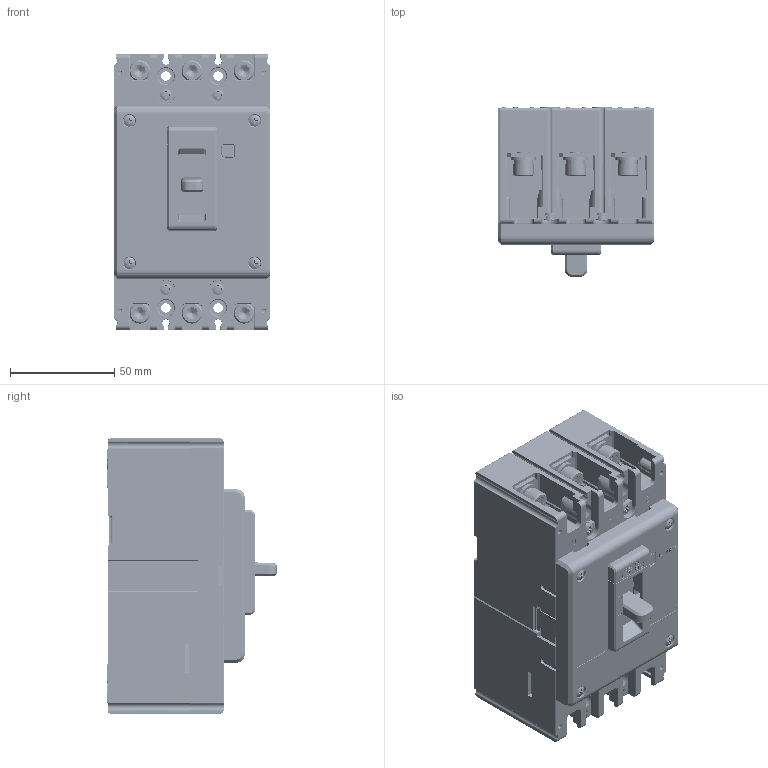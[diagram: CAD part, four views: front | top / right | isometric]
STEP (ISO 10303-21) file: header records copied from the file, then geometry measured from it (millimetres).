
FILE_DESCRIPTION((''),'2;1');
FILE_NAME('2253025000_ASM_2_ASM','2025-04-28T',('Administrator'),(''),'PRO/ENGINEER BY PARAMETRIC TECHNOLOGY CORPORATION, 2015440','PRO/ENGINEER BY PARAMETRIC TECHNOLOGY CORPORATION, 2015440','');
FILE_SCHEMA(('CONFIG_CONTROL_DESIGN'));
Products named in the file (43): JZ-5024045100_2; GB_T809-M3X10_2; 5024045100_ASM_2_ASM; 8946008800_1; 8760006100_1; 5024045700_ASM_2_ASM; 8551032800_1; 5551069200_ASM_1_ASM; 5551069300_ASM_1_ASM; 8742101200_2; 8742101100_2; 8585063700_1; 85050240P08_1_ASM; 5551069000_ASM_1_ASM; 55510691P01_ASM_2_ASM; 55510694P01_ASM_2_ASM; 5257006300_ASM_1_ASM; 5233014000_ASM_1_ASM; 5850003500_ASM_1_ASM; 67600085P01_ASM_2_ASM; 8040025700_1_ASM; 5612030400_ASM_1_ASM; 6760008600_ASM_1_ASM; 8750038600_1; 8253057100_1; 8865077900_AF0_1; 8865078000_AF0_1; 5253022600_ASM_1_ASM; 8742102100_1; 8315096500_2; 8315096700_1; 8253076700_1; 5315052000_ASM_2_ASM; 7020100411_GB13806_2_ST2_9X8_A_; 7010100312J_GB_T823_M3X20_1; 7090300201_GB_T93_3_1; GB_T97_4_3_1; 5850006000_ASM_1_ASM; 7010600302J_GB_T70_1_M6X16_1; 7090300601J_GB_T93_6_1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
Assembly tree (77 placements, depth 5):
  2253025000_ASM_2_ASM
    5024045700_ASM_2_ASM
      5024045100_ASM_2_ASM
        JZ-5024045100_2
        GB_T809-M3X10_2  x4
      8946008800_1  x6
      8760006100_1  x6
    5551069300_ASM_1_ASM  x3
      5551069200_ASM_1_ASM
        8551032800_1
    8742101200_2  x3
    8742101100_2  x3
    6760008600_ASM_1_ASM
      55510694P01_ASM_2_ASM
        55510691P01_ASM_2_ASM  x3
          8585063700_1
          85050240P08_1_ASM
          5551069000_ASM_1_ASM
      67600085P01_ASM_2_ASM
        5257006300_ASM_1_ASM
        5233014000_ASM_1_ASM
        5850003500_ASM_1_ASM
      5612030400_ASM_1_ASM  x3
        8040025700_1_ASM
    8750038600_1
    5253022600_ASM_1_ASM
      8253057100_1
      8865077900_AF0_1
      8865078000_AF0_1
    8742102100_1
    8315096500_2
    5315052000_ASM_2_ASM
      8315096700_1
      8253076700_1
    7020100411_GB13806_2_ST2_9X8_A_  x4
    5850006000_ASM_1_ASM  x4
      7010100312J_GB_T823_M3X20_1
      7090300201_GB_T93_3_1
      GB_T97_4_3_1
    5850012200_ASM_1_ASM  x6
      7010600302J_GB_T70_1_M6X16_1
      7090300601J_GB_T93_6_1
      GB_T97_1-6_2
Bounding box: 75 x 81.49 x 132 mm (x, y, z)
Volume: 532341.4 mm3; surface area: 155021.8 mm2
Topology: 71 solids, 75 shells, 5341 faces, 14111 edges, 8955 vertices
Faces by surface type: plane 2364, cylinder 1740, torus 488, cone 217, extrusion 211, sphere 161, bspline 160
Entity records: 129283 total; most frequent: CARTESIAN_POINT 33017, ORIENTED_EDGE 20258, DIRECTION 19678, EDGE_CURVE 10129, AXIS2_PLACEMENT_3D 6835, VERTEX_POINT 6508, VECTOR 6008, LINE 5797
